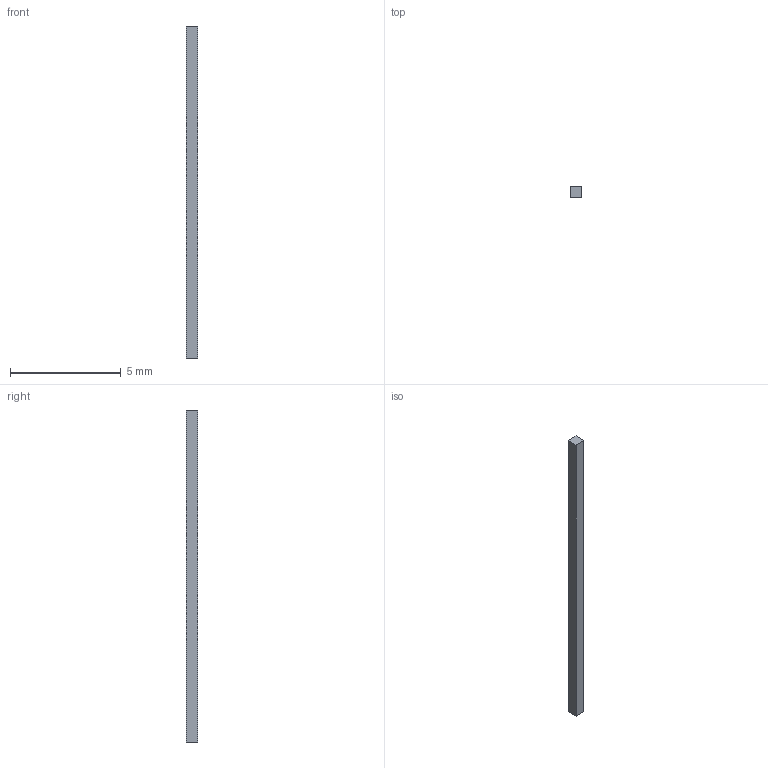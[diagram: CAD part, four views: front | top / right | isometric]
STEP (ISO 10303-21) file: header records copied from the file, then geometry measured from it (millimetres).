
FILE_DESCRIPTION(/* description */ ('STEP AP242 Edition 2','CAx-IF Rec.Pracs.---Representation and Presentation of Product Manufacturing Information (PMI)---4.0---2014-10-13','CAx-IF Rec.Pracs.---3D Tessellated Geometry---0.4---2014-09-14','2;1','CAx-IF Rec.Pracs.---User Defined Attributes---1.5---2016-08-15'),/* implementation_level */ '2;1');
FILE_NAME(/* name */ 'Assembly 1 - Body8',/* time_stamp */ '2026-09-25T20:07:15Z',/* author */ (''),/* organization */ (''),/* preprocessor_version */ 'ST-DEVELOPER v20',/* originating_system */ 'ONSHAPE BY PTC INC, 1.221',/* authorisation */ ' ');
FILE_SCHEMA (('AP242_MANAGED_MODEL_BASED_3D_ENGINEERING_MIM_LF { 1 0 10303 442 3 1 4 }'));
Length unit declared in the file: metre
Products named in the file (1): Body8
Bounding box: 0.5 x 0.5 x 15 mm (x, y, z)
Volume: 3.8 mm3; surface area: 30.5 mm2
Topology: 1 solids, 1 shells, 6 faces, 12 edges, 8 vertices
Faces by surface type: plane 6
Entity records: 178 total; most frequent: CARTESIAN_POINT 27, DIRECTION 26, ORIENTED_EDGE 24, EDGE_CURVE 12, LINE 12, VECTOR 12, VERTEX_POINT 8, AXIS2_PLACEMENT_3D 7
